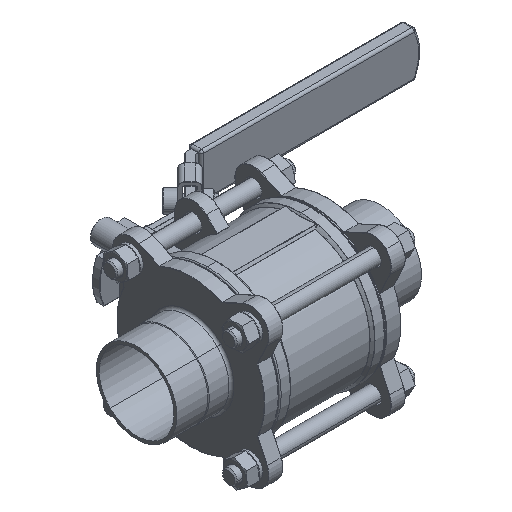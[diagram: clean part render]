
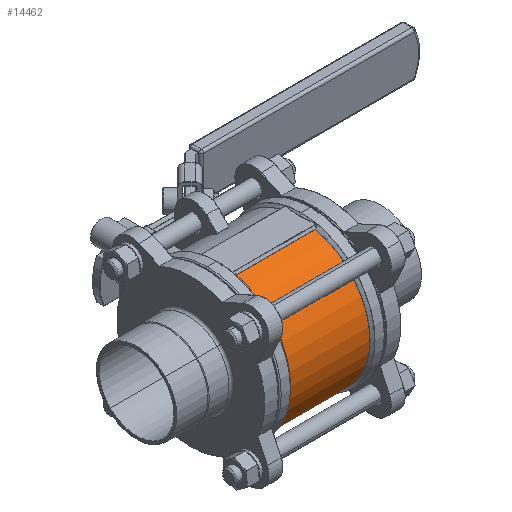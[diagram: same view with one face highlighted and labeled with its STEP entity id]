
A CAD part, isometric view. The second image highlights one B-rep face of the part: STEP entity #14462.
In plain terms, the highlighted cylindrical face has radius 57.5 mm (diameter 115 mm), a partial arc.
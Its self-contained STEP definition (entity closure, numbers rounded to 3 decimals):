
#56 = DIRECTION ( 'NONE',  ( 1., 0., 0. ) ) ;
#540 = CARTESIAN_POINT ( 'NONE',  ( 31.917, -13.82, -55.815 ) ) ;
#910 = DIRECTION ( 'NONE',  ( 0., 0., -1. ) ) ;
#2294 = VECTOR ( 'NONE', #16469, 1000. ) ;
#2565 = EDGE_LOOP ( 'NONE', ( #11287, #20212, #12072, #4882 ) ) ;
#2584 = AXIS2_PLACEMENT_3D ( 'NONE', #7005, #12659, #910 ) ;
#4882 = ORIENTED_EDGE ( 'NONE', *, *, #16714, .T. ) ;
#6259 = DIRECTION ( 'NONE',  ( 1., 0., 0. ) ) ;
#6674 = EDGE_CURVE ( 'NONE', #21966, #22042, #24148, .T. ) ;
#6822 = VECTOR ( 'NONE', #6259, 1000. ) ;
#7005 = CARTESIAN_POINT ( 'NONE',  ( -31.917, 0., 0. ) ) ;
#8007 = CIRCLE ( 'NONE', #2584, 57.5 ) ;
#8155 = CARTESIAN_POINT ( 'NONE',  ( 24.418, 0., 0. ) ) ;
#8486 = CARTESIAN_POINT ( 'NONE',  ( 24.418, -13.82, 55.815 ) ) ;
#8781 = DIRECTION ( 'NONE',  ( -1., 0., 0. ) ) ;
#8967 = EDGE_CURVE ( 'NONE', #19586, #21966, #8007, .T. ) ;
#10603 = CARTESIAN_POINT ( 'NONE',  ( 31.917, 0., 0. ) ) ;
#11287 = ORIENTED_EDGE ( 'NONE', *, *, #21588, .T. ) ;
#12072 = ORIENTED_EDGE ( 'NONE', *, *, #6674, .T. ) ;
#12659 = DIRECTION ( 'NONE',  ( 1., 0., 0. ) ) ;
#13882 = VERTEX_POINT ( 'NONE', #18616 ) ;
#14451 = FACE_OUTER_BOUND ( 'NONE', #2565, .T. ) ;
#14462 = ADVANCED_FACE ( 'NONE', ( #14451 ), #19647, .T. ) ;
#15463 = AXIS2_PLACEMENT_3D ( 'NONE', #10603, #8781, #22607 ) ;
#15931 = AXIS2_PLACEMENT_3D ( 'NONE', #8155, #56, #20054 ) ;
#16469 = DIRECTION ( 'NONE',  ( -1., 0., 0. ) ) ;
#16714 = EDGE_CURVE ( 'NONE', #22042, #13882, #19786, .T. ) ;
#18616 = CARTESIAN_POINT ( 'NONE',  ( 31.917, -13.82, 55.815 ) ) ;
#19586 = VERTEX_POINT ( 'NONE', #23371 ) ;
#19647 = CYLINDRICAL_SURFACE ( 'NONE', #15931, 57.5 ) ;
#19786 = CIRCLE ( 'NONE', #15463, 57.5 ) ;
#19895 = CARTESIAN_POINT ( 'NONE',  ( 24.418, -13.82, -55.815 ) ) ;
#20054 = DIRECTION ( 'NONE',  ( 0., 0., -1. ) ) ;
#20212 = ORIENTED_EDGE ( 'NONE', *, *, #8967, .T. ) ;
#21491 = LINE ( 'NONE', #8486, #2294 ) ;
#21588 = EDGE_CURVE ( 'NONE', #13882, #19586, #21491, .T. ) ;
#21966 = VERTEX_POINT ( 'NONE', #25580 ) ;
#22042 = VERTEX_POINT ( 'NONE', #540 ) ;
#22607 = DIRECTION ( 'NONE',  ( 0., 0., -1. ) ) ;
#23371 = CARTESIAN_POINT ( 'NONE',  ( -31.917, -13.82, 55.815 ) ) ;
#24148 = LINE ( 'NONE', #19895, #6822 ) ;
#25580 = CARTESIAN_POINT ( 'NONE',  ( -31.917, -13.82, -55.815 ) ) ;
